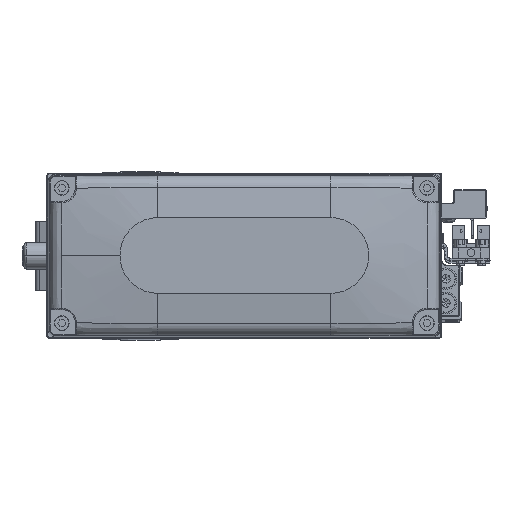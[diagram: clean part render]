
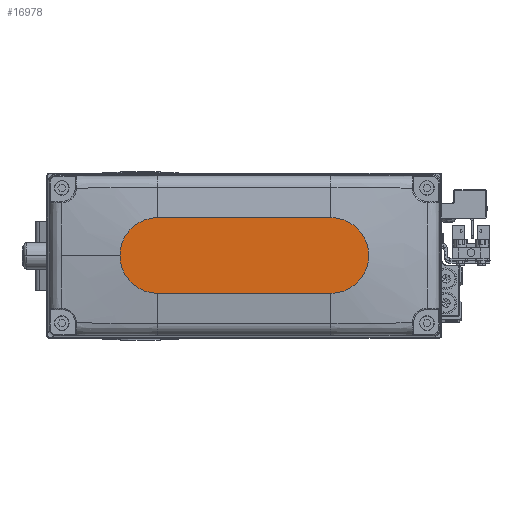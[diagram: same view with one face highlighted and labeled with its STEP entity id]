
A CAD part, top view. The second image highlights one B-rep face of the part: STEP entity #16978.
In plain terms, the highlighted planar face has unit normal (0, 0, 1).
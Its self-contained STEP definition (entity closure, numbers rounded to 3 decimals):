
#2415 = ORIENTED_EDGE ( 'NONE', *, *, #40053, .T. ) ;
#2526 = CARTESIAN_POINT ( 'NONE',  ( 0., 0., 35. ) ) ;
#2770 = CARTESIAN_POINT ( 'NONE',  ( -32., -14., 35. ) ) ;
#3363 = DIRECTION ( 'NONE',  ( 0., 0., 1. ) ) ;
#6260 = AXIS2_PLACEMENT_3D ( 'NONE', #2526, #16774, #31017 ) ;
#7536 = VECTOR ( 'NONE', #17022, 1000. ) ;
#8064 = CARTESIAN_POINT ( 'NONE',  ( -32., 0., 35. ) ) ;
#8753 = DIRECTION ( 'NONE',  ( 0., 0., 1. ) ) ;
#9791 = ORIENTED_EDGE ( 'NONE', *, *, #28497, .T. ) ;
#10420 = AXIS2_PLACEMENT_3D ( 'NONE', #35367, #3363, #17613 ) ;
#10427 = CARTESIAN_POINT ( 'NONE',  ( -32., 14., 35. ) ) ;
#11220 = VERTEX_POINT ( 'NONE', #29774 ) ;
#11833 = AXIS2_PLACEMENT_3D ( 'NONE', #8064, #22311, #36559 ) ;
#14647 = VERTEX_POINT ( 'NONE', #10427 ) ;
#15732 = CARTESIAN_POINT ( 'NONE',  ( -32., -14., 35. ) ) ;
#16425 = LINE ( 'NONE', #30667, #40007 ) ;
#16774 = DIRECTION ( 'NONE',  ( 0., 0., 1. ) ) ;
#16978 = ADVANCED_FACE ( 'NONE', ( #20284 ), #34532, .T. ) ;
#17022 = DIRECTION ( 'NONE',  ( 1., 0., 0. ) ) ;
#17613 = DIRECTION ( 'NONE',  ( 1., 0., 0. ) ) ;
#20284 = FACE_OUTER_BOUND ( 'NONE', #20298, .T. ) ;
#20298 = EDGE_LOOP ( 'NONE', ( #42105, #2415, #9791, #28101, #40780 ) ) ;
#22311 = DIRECTION ( 'NONE',  ( 0., 0., 1. ) ) ;
#22995 = DIRECTION ( 'NONE',  ( 1., 0., 0. ) ) ;
#23229 = VERTEX_POINT ( 'NONE', #43464 ) ;
#24263 = AXIS2_PLACEMENT_3D ( 'NONE', #40725, #8753, #22995 ) ;
#26102 = EDGE_CURVE ( 'NONE', #23229, #11220, #30581, .T. ) ;
#28101 = ORIENTED_EDGE ( 'NONE', *, *, #26102, .T. ) ;
#28497 = EDGE_CURVE ( 'NONE', #29705, #23229, #34145, .T. ) ;
#29705 = VERTEX_POINT ( 'NONE', #15732 ) ;
#29774 = CARTESIAN_POINT ( 'NONE',  ( 46., 0., 35. ) ) ;
#30581 = CIRCLE ( 'NONE', #10420, 14. ) ;
#30667 = CARTESIAN_POINT ( 'NONE',  ( -32., 14., 35. ) ) ;
#31017 = DIRECTION ( 'NONE',  ( 1., 0., 0. ) ) ;
#31975 = CIRCLE ( 'NONE', #11833, 14. ) ;
#33837 = EDGE_CURVE ( 'NONE', #41180, #14647, #16425, .T. ) ;
#34145 = LINE ( 'NONE', #2770, #7536 ) ;
#34532 = PLANE ( 'NONE',  #6260 ) ;
#35367 = CARTESIAN_POINT ( 'NONE',  ( 32., 0., 35. ) ) ;
#36559 = DIRECTION ( 'NONE',  ( 1., 0., 0. ) ) ;
#40007 = VECTOR ( 'NONE', #44873, 1000. ) ;
#40053 = EDGE_CURVE ( 'NONE', #14647, #29705, #31975, .T. ) ;
#40725 = CARTESIAN_POINT ( 'NONE',  ( 32., 0., 35. ) ) ;
#40780 = ORIENTED_EDGE ( 'NONE', *, *, #44535, .T. ) ;
#41180 = VERTEX_POINT ( 'NONE', #46100 ) ;
#42105 = ORIENTED_EDGE ( 'NONE', *, *, #33837, .T. ) ;
#43464 = CARTESIAN_POINT ( 'NONE',  ( 32., -14., 35. ) ) ;
#44380 = CIRCLE ( 'NONE', #24263, 14. ) ;
#44535 = EDGE_CURVE ( 'NONE', #11220, #41180, #44380, .T. ) ;
#44873 = DIRECTION ( 'NONE',  ( -1., 0., 0. ) ) ;
#46100 = CARTESIAN_POINT ( 'NONE',  ( 32., 14., 35. ) ) ;
